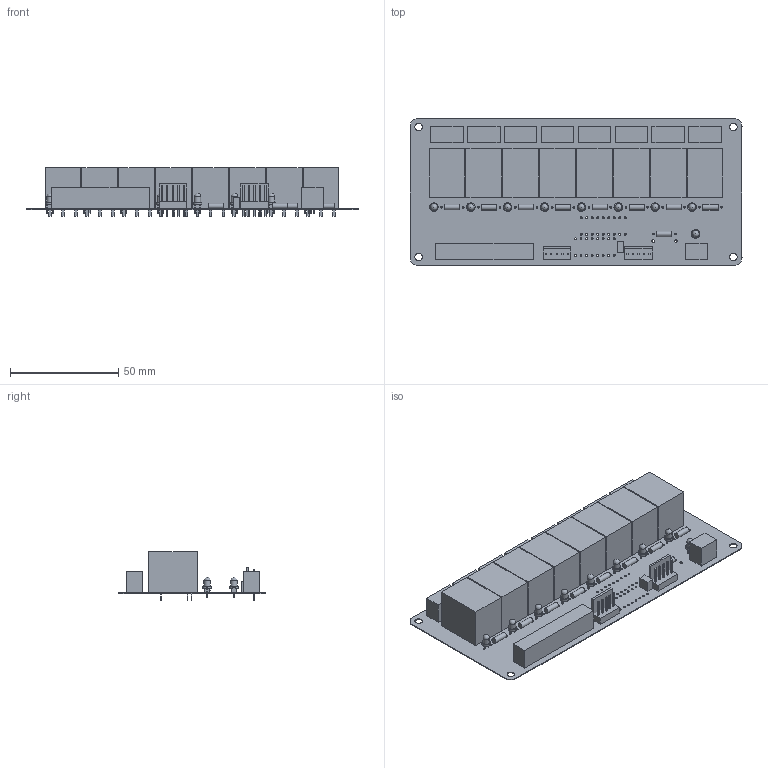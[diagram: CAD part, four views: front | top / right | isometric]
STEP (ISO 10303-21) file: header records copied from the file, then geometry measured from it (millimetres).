
FILE_DESCRIPTION(('Open CASCADE Model'),'2;1');
FILE_NAME('Open CASCADE Shape Model','2011-05-12T07:10:23',('Author'),( 'Open CASCADE'),'Open CASCADE STEP processor 6.2','Open CASCADE 6.2' ,'Unknown');
FILE_SCHEMA(('AUTOMOTIVE_DESIGN { 1 0 10303 214 1 1 1 1 }'));
Length unit declared in the file: millimetre
Products named in the file (83): PCB; Board; Parallel_input; 581914256; Extruded; C1; 581914640; ExtBusIN; 430380048; 381811488; 581914768; 581914128; ExtBusOUT; VCCre; 381811744; R1; 698569784; Cylinder; RelA; 581912720; 581915024; 581914512; RelB; RelC; RelD; RelE; RelF; RelG; RelH; reA; 698568944; 698568824; Sphere; 698568704; 581916304; 581915792; reB; reH; RelayA; 581914896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
Assembly tree (188 placements, depth 4):
  PCB
    Board
    Parallel_input
      581914256
        Extruded
    C1
      581914640
        Extruded
    ExtBusIN
      430380048  x4
        Extruded
      381811488
        Extruded
      581914768
        Extruded
      581914128
        Extruded
    ExtBusOUT
      430380048  x4
        Extruded
      381811488
        Extruded
      581914768
        Extruded
      581914128
        Extruded
    VCCre
      381811744
        Extruded
    R1
      698569784
        Cylinder
    RelA
      581912720
        Extruded
      581915024  x4
        Extruded
      581914512
        Extruded
    RelB
      581912720
        Extruded
      581915024  x4
        Extruded
      581914512
        Extruded
    RelC
      581912720
        Extruded
      581915024  x4
        Extruded
      581914512
        Extruded
    RelD
      581912720
        Extruded
      581915024  x4
        Extruded
      581914512
        Extruded
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Bounding box: 153.02 x 68.02 x 22.5 mm (x, y, z)
Volume: 75127.9 mm3; surface area: 50026.2 mm2
Topology: 128 solids, 128 shells, 851 faces, 1839 edges, 1226 vertices
Faces by surface type: plane 652, cylinder 190, sphere 9
Full cylindrical faces by diameter (mm): 0.7 x18, 0.8 x18, 0.9 x34, 1 x12, 1.2 x2, 1.3 x75, 2.5 x9, 3 x9, 3.5 x4, 4 x9
Entity records: 23481 total; most frequent: DIRECTION 3757, CARTESIAN_POINT 3569, LINE 1751, VECTOR 1751, ORIENTED_EDGE 1626, PCURVE 1626, DEFINITIONAL_REPRESENTATION 1626, AXIS2_PLACEMENT_3D 840
